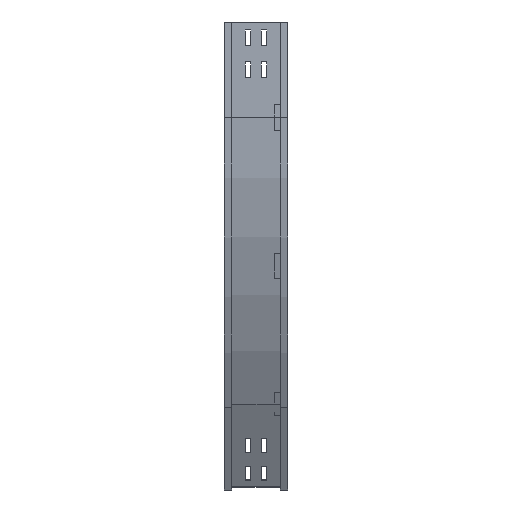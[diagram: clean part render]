
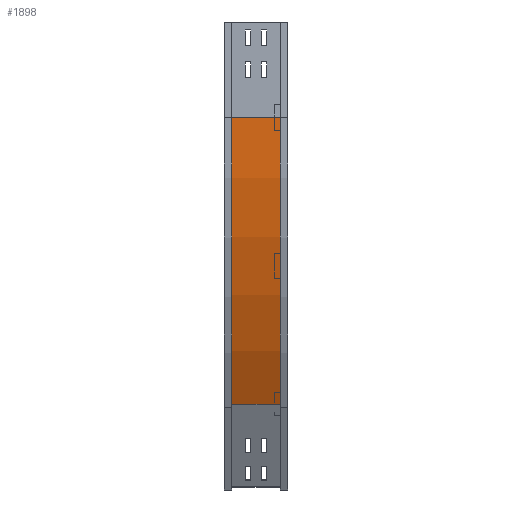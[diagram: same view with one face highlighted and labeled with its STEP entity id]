
A CAD part, left-side view. The second image highlights one B-rep face of the part: STEP entity #1898.
In plain terms, the highlighted cylindrical face has radius 900 mm (diameter 1800 mm), a partial arc.
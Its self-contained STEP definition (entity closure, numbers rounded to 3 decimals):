
#10 = CYLINDRICAL_SURFACE ( 'NONE', #872, 900. ) ;
#303 = AXIS2_PLACEMENT_3D ( 'NONE', #4408, #3407, #3022 ) ;
#390 = ORIENTED_EDGE ( 'NONE', *, *, #1845, .F. ) ;
#652 = VECTOR ( 'NONE', #735, 1000. ) ;
#735 = DIRECTION ( 'NONE',  ( 0., -1., 0. ) ) ;
#795 = EDGE_CURVE ( 'NONE', #958, #2551, #2249, .T. ) ;
#872 = AXIS2_PLACEMENT_3D ( 'NONE', #1407, #2787, #4175 ) ;
#951 = VECTOR ( 'NONE', #3520, 1000. ) ;
#958 = VERTEX_POINT ( 'NONE', #4145 ) ;
#1109 = CARTESIAN_POINT ( 'NONE',  ( 129.577, 12., -600. ) ) ;
#1407 = CARTESIAN_POINT ( 'NONE',  ( 909., 0., -150. ) ) ;
#1738 = FACE_OUTER_BOUND ( 'NONE', #4393, .T. ) ;
#1747 = CARTESIAN_POINT ( 'NONE',  ( 129.577, 88., -600. ) ) ;
#1845 = EDGE_CURVE ( 'NONE', #958, #3742, #2836, .T. ) ;
#1898 = ADVANCED_FACE ( 'NONE', ( #1738 ), #10, .T. ) ;
#2240 = DIRECTION ( 'NONE',  ( 0., -1., 0. ) ) ;
#2249 = CIRCLE ( 'NONE', #2825, 900. ) ;
#2431 = CARTESIAN_POINT ( 'NONE',  ( 9., 12., -150. ) ) ;
#2511 = LINE ( 'NONE', #2805, #652 ) ;
#2551 = VERTEX_POINT ( 'NONE', #1747 ) ;
#2639 = DIRECTION ( 'NONE',  ( -1., 0., 0. ) ) ;
#2787 = DIRECTION ( 'NONE',  ( 0., -1., 0. ) ) ;
#2805 = CARTESIAN_POINT ( 'NONE',  ( 129.577, 12., -600. ) ) ;
#2825 = AXIS2_PLACEMENT_3D ( 'NONE', #3285, #2240, #2639 ) ;
#2836 = LINE ( 'NONE', #4495, #951 ) ;
#2854 = EDGE_CURVE ( 'NONE', #3742, #3412, #2975, .T. ) ;
#2939 = ORIENTED_EDGE ( 'NONE', *, *, #3460, .T. ) ;
#2948 = ORIENTED_EDGE ( 'NONE', *, *, #2854, .F. ) ;
#2975 = CIRCLE ( 'NONE', #303, 900. ) ;
#3022 = DIRECTION ( 'NONE',  ( -1., 0., 0. ) ) ;
#3285 = CARTESIAN_POINT ( 'NONE',  ( 909., 88., -150. ) ) ;
#3407 = DIRECTION ( 'NONE',  ( 0., -1., 0. ) ) ;
#3412 = VERTEX_POINT ( 'NONE', #1109 ) ;
#3460 = EDGE_CURVE ( 'NONE', #2551, #3412, #2511, .T. ) ;
#3520 = DIRECTION ( 'NONE',  ( 0., -1., 0. ) ) ;
#3742 = VERTEX_POINT ( 'NONE', #2431 ) ;
#4145 = CARTESIAN_POINT ( 'NONE',  ( 9., 88., -150. ) ) ;
#4175 = DIRECTION ( 'NONE',  ( 0., 0., -1. ) ) ;
#4393 = EDGE_LOOP ( 'NONE', ( #2948, #390, #4442, #2939 ) ) ;
#4408 = CARTESIAN_POINT ( 'NONE',  ( 909., 12., -150. ) ) ;
#4442 = ORIENTED_EDGE ( 'NONE', *, *, #795, .T. ) ;
#4495 = CARTESIAN_POINT ( 'NONE',  ( 9., 12., -150. ) ) ;
